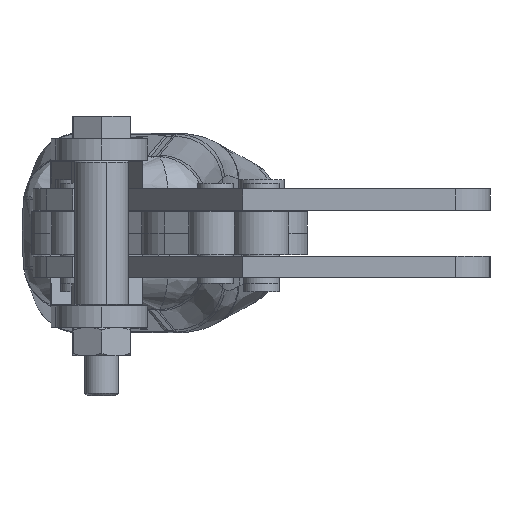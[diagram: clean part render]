
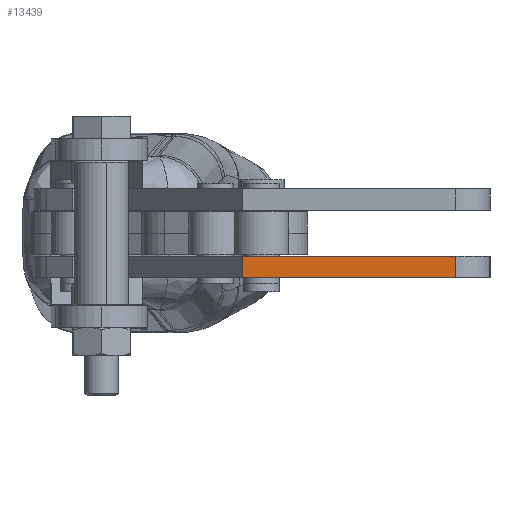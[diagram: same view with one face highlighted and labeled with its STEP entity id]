
A CAD part, left-side view. The second image highlights one B-rep face of the part: STEP entity #13439.
In plain terms, the highlighted planar face has unit normal (-1, 0, 0) as drawn and (1, 0, 0) by its records, which use the part's own axes.
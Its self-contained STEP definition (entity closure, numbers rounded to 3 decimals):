
#189 = CARTESIAN_POINT ( 'NONE',  ( 40., -65.987, -3.75 ) ) ;
#693 = VERTEX_POINT ( 'NONE', #9153 ) ;
#986 = ORIENTED_EDGE ( 'NONE', *, *, #1758, .F. ) ;
#1447 = CARTESIAN_POINT ( 'NONE',  ( 40., -28.686, 0. ) ) ;
#1545 = ORIENTED_EDGE ( 'NONE', *, *, #6837, .T. ) ;
#1758 = EDGE_CURVE ( 'NONE', #17187, #11005, #2690, .T. ) ;
#2256 = EDGE_LOOP ( 'NONE', ( #7163, #986, #17171, #1545 ) ) ;
#2348 = PLANE ( 'NONE',  #2543 ) ;
#2543 = AXIS2_PLACEMENT_3D ( 'NONE', #9184, #4090, #16165 ) ;
#2690 = LINE ( 'NONE', #19287, #3238 ) ;
#3238 = VECTOR ( 'NONE', #3945, 1000. ) ;
#3945 = DIRECTION ( 'NONE',  ( 0., 0., 1. ) ) ;
#4090 = DIRECTION ( 'NONE',  ( 1., 0., 0. ) ) ;
#4479 = CARTESIAN_POINT ( 'NONE',  ( 40., -65.987, 0. ) ) ;
#6837 = EDGE_CURVE ( 'NONE', #693, #10503, #16399, .T. ) ;
#7073 = DIRECTION ( 'NONE',  ( 0., 1., 0. ) ) ;
#7163 = ORIENTED_EDGE ( 'NONE', *, *, #21240, .F. ) ;
#8097 = VECTOR ( 'NONE', #8358, 1000. ) ;
#8358 = DIRECTION ( 'NONE',  ( 0., 1., 0. ) ) ;
#9153 = CARTESIAN_POINT ( 'NONE',  ( 40., -28.686, -3.75 ) ) ;
#9184 = CARTESIAN_POINT ( 'NONE',  ( 40., -65.987, -3.75 ) ) ;
#10503 = VERTEX_POINT ( 'NONE', #1447 ) ;
#11005 = VERTEX_POINT ( 'NONE', #22175 ) ;
#11802 = VECTOR ( 'NONE', #19114, 1000. ) ;
#12577 = VECTOR ( 'NONE', #7073, 1000. ) ;
#13100 = LINE ( 'NONE', #189, #12577 ) ;
#13439 = ADVANCED_FACE ( 'NONE', ( #18283 ), #2348, .T. ) ;
#14345 = EDGE_CURVE ( 'NONE', #17187, #693, #13100, .T. ) ;
#16165 = DIRECTION ( 'NONE',  ( 0., 1., 0. ) ) ;
#16399 = LINE ( 'NONE', #18952, #11802 ) ;
#16915 = CARTESIAN_POINT ( 'NONE',  ( 40., -65.987, -3.75 ) ) ;
#17171 = ORIENTED_EDGE ( 'NONE', *, *, #14345, .T. ) ;
#17187 = VERTEX_POINT ( 'NONE', #16915 ) ;
#18283 = FACE_OUTER_BOUND ( 'NONE', #2256, .T. ) ;
#18952 = CARTESIAN_POINT ( 'NONE',  ( 40., -28.686, -3.75 ) ) ;
#19114 = DIRECTION ( 'NONE',  ( 0., 0., 1. ) ) ;
#19287 = CARTESIAN_POINT ( 'NONE',  ( 40., -65.987, -3.75 ) ) ;
#21240 = EDGE_CURVE ( 'NONE', #11005, #10503, #21945, .T. ) ;
#21945 = LINE ( 'NONE', #4479, #8097 ) ;
#22175 = CARTESIAN_POINT ( 'NONE',  ( 40., -65.987, 0. ) ) ;
